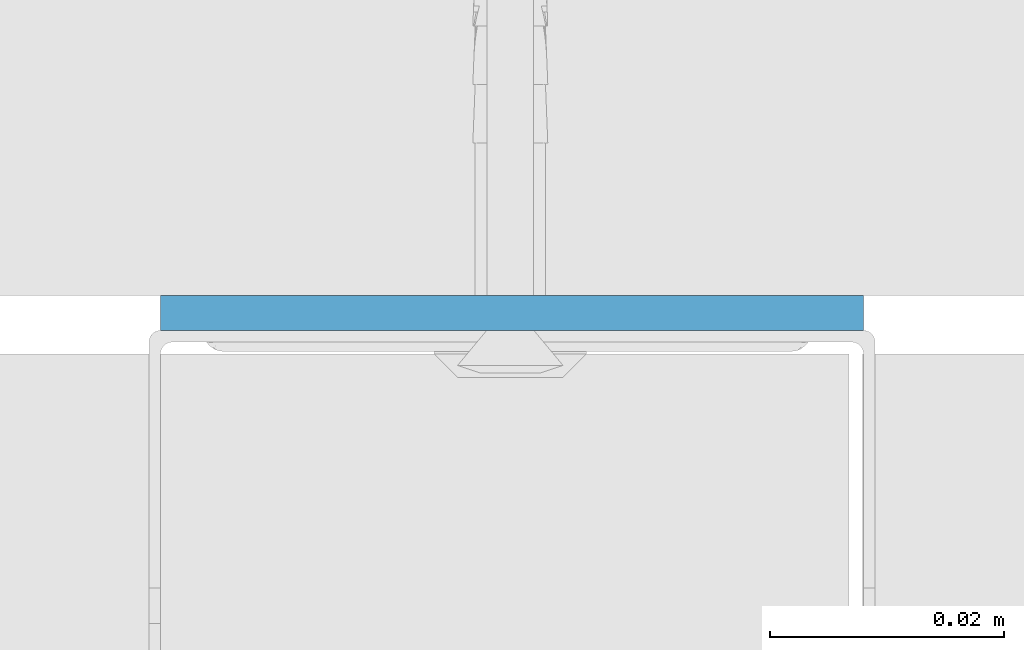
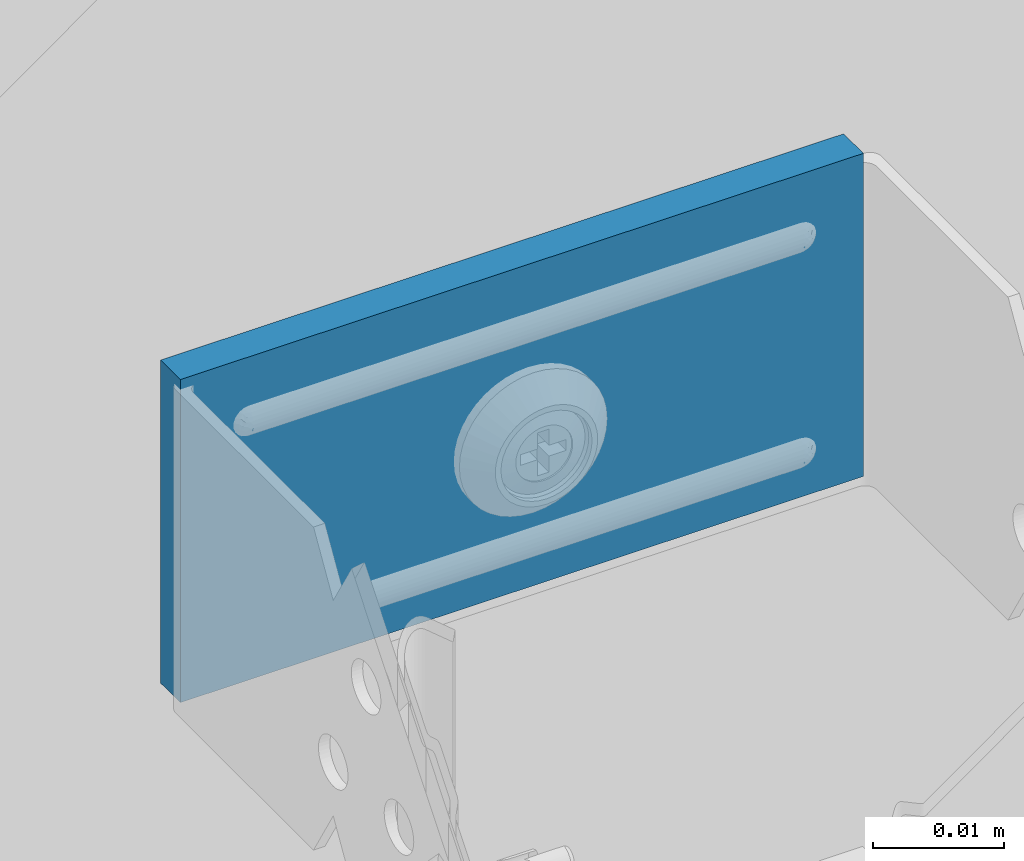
# One storey, part 19 of 48: 1 wall.
"""IFC2X3 building model written with IfcOpenShell, lengths in millimetres."""

from ifc_helpers import new_model, entity, si_unit, converted_unit, direction, frame, origin, origin_with_axes, place, context, project, spatial, faceted_brep, element, save


model = new_model("IFC2X3")

# Units and contexts
model_context = context("Model", 3, precision=1e-05, world=origin(), true_north=direction((0.0, 1.0, 0.0)))
ifc_project = project(units=[si_unit("LENGTHUNIT", "METRE", prefix="MILLI"), si_unit("AREAUNIT", "SQUARE_METRE"), si_unit("VOLUMEUNIT", "CUBIC_METRE"), converted_unit("PLANEANGLEUNIT", "DEGREE", entity("IfcPlaneAngleMeasure", 0.01745), si_unit("PLANEANGLEUNIT", "RADIAN"), dimensions=[0, 0, 0, 0, 0, 0, 0]), si_unit("SOLIDANGLEUNIT", "STERADIAN"), si_unit("MASSUNIT", "GRAM"), si_unit("TIMEUNIT", "SECOND"), si_unit("THERMODYNAMICTEMPERATUREUNIT", "DEGREE_CELSIUS"), si_unit("LUMINOUSINTENSITYUNIT", "LUMEN")], contexts=[model_context])

# Site, building, storey
site_placement = place(None, origin_with_axes())
site = spatial("IfcSite", under=ifc_project, at=site_placement, Name="Default Site", CompositionType="ELEMENT")
building_placement = place(site_placement, origin_with_axes())
building = spatial("IfcBuilding", under=site, at=building_placement, Name="Default Building", CompositionType="ELEMENT")
storey_placement = place(building_placement, origin_with_axes())
storey = spatial("IfcBuildingStorey", under=building, at=storey_placement, Name="Default Building Storey", CompositionType="ELEMENT", Elevation=0.0)

# Wall
wall_placement = place(storey_placement, frame((3104.111977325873, 2019.140922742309, 1121.101645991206), z_axis=(0.0, 0.0, 1.0), x_axis=(1.0, 0.0, 0.0)))
element("IfcWall", 1, at=wall_placement, inside=storey, Name="Taśma uszczelniająca piankowa RIGIPS szer.30mm", context=model_context, shape_type="Brep", body=[
    faceted_brep([(59.99999999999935, 0.0, 4.511946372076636e-12), (0.0, 0.0, 0.0), (1.082867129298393e-12, -2.237925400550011e-11, -30.00000000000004), (60.00000000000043, -2.237925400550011e-11, -29.99999999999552), (0.0, 3.00000000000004, 0.0), (1.082867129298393e-12, 2.999999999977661, -30.00000000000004), (60.00000000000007, 3.00000000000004, 0.0), (60.00000000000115, 2.999999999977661, -30.00000000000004)], [[[0, 1, 2, 3]], [[1, 4, 5, 2]], [[4, 6, 7, 5]], [[6, 0, 3, 7]], [[7, 3, 2, 5]], [[0, 6, 4, 1]]]),
])

save(model, "model.ifc")
